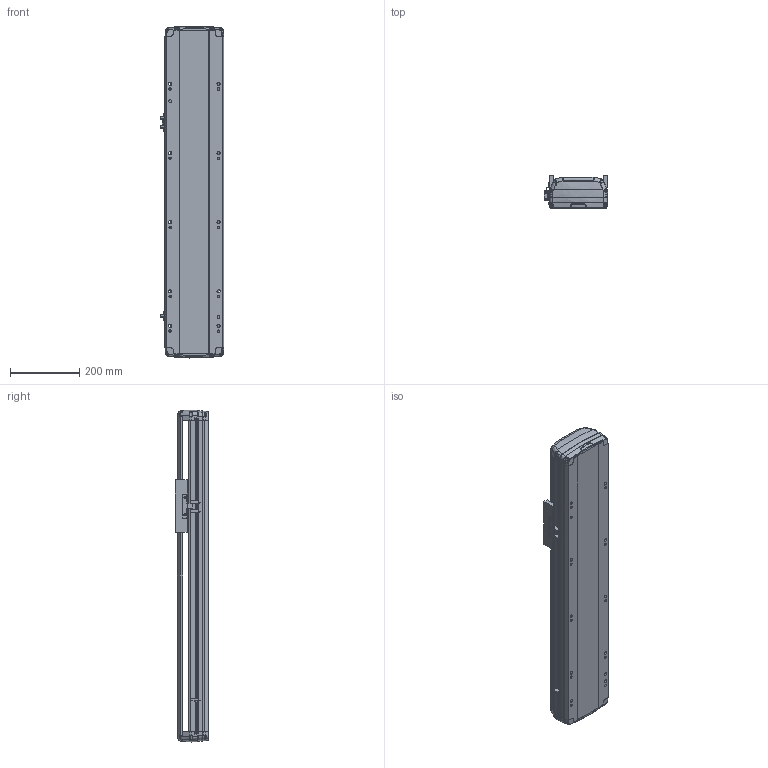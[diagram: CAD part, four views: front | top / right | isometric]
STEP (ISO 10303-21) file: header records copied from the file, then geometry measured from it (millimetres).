
FILE_DESCRIPTION (( 'STEP AP214' ), '1' );
FILE_NAME ('RTH17-XX-550-B-M40-C4.STEP', '2025-10-24T08:35:12', ( '' ), ( '' ), 'SwSTEP 2.0', 'SolidWorks 2018', '' );
FILE_SCHEMA (( 'AUTOMOTIVE_DESIGN' ));
Length unit declared in the file: millimetre
Products named in the file (7): N_RTH17-GY-001P^RTH17-XX-XX-B-M40-C4（方程式）; N_RTH17-M-007上盖^RTH17-XX-XX-B-M40-C4（方程式）; N_RTH17-M-011底座^RTH17-XX-XX-B-M40-C4（方程式）; N_RTH-L-012 感应片(外置)^RTH17-XX-XX-B-M40-C4（方程式）; RTH17-XX-550-B-M40-C4; N_OMRON EE-SX672 換覜ん^RTH17-XX-XX-B-M40-C4ㄗ源最宒ㄘ; N_RTH17-E-004丝杆螺母连接座^RTH17-XX-XX-B-M40-C4（方程式）
Assembly tree (9 placements, depth 2):
  RTH17-XX-550-B-M40-C4
    N_RTH17-M-011底座^RTH17-XX-XX-B-M40-C4（方程式）
    N_RTH17-M-007上盖^RTH17-XX-XX-B-M40-C4（方程式）
    N_OMRON EE-SX672 換覜ん^RTH17-XX-XX-B-M40-C4ㄗ源最宒ㄘ  x3
    N_RTH-L-012 感应片(外置)^RTH17-XX-XX-B-M40-C4（方程式）
    N_RTH17-E-004丝杆螺母连接座^RTH17-XX-XX-B-M40-C4（方程式）
    N_RTH17-GY-001P^RTH17-XX-XX-B-M40-C4（方程式）  x2
Bounding box: 183.5 x 97 x 959.88 mm (x, y, z)
Volume: 7140672 mm3; surface area: 1015742.5 mm2
Topology: 7 solids, 11 shells, 1720 faces, 4826 edges, 3134 vertices
Faces by surface type: plane 809, cylinder 445, bspline 420, cone 28, torus 18
Entity records: 40278 total; most frequent: CARTESIAN_POINT 16789, ORIENTED_EDGE 5156, DIRECTION 4066, EDGE_CURVE 2582, VERTEX_POINT 1688, LINE 1418, VECTOR 1418, AXIS2_PLACEMENT_3D 1324
